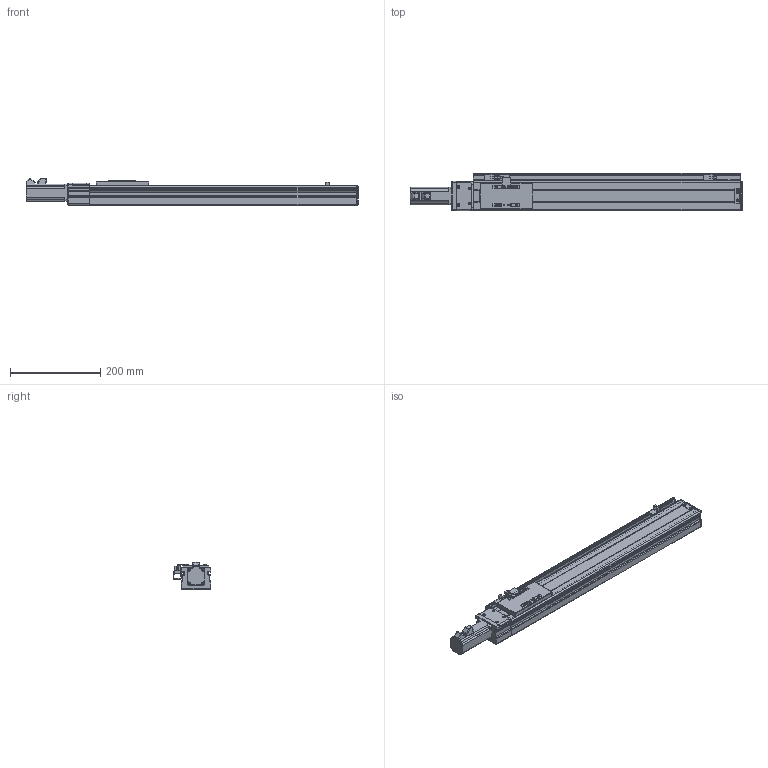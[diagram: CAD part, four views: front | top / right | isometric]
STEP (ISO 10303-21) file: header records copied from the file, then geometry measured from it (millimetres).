
FILE_DESCRIPTION (( 'STEP AP203' ), '1' );
FILE_NAME ('VT6-L10-C-S440-BC-P10-C4.STEP', '2015-10-26T05:58:42', ( '' ), ( '' ), 'SwSTEP 2.0', 'SolidWorks 2013', '' );
FILE_SCHEMA (( 'CONFIG_CONTROL_DESIGN' ));
Length unit declared in the file: millimetre
Products named in the file (15): ET6-BC耜啣_440; T6-BCヶ傷裔; ET6-BC絳寢_俴最440; T6-覜茼え; T6-裔啣; EE-XS674; ET6-BC滅鳥湍_440; T6-賑雄殤; T6-綴傷裔; VT6-L10-C-S440-BC-P10-C4; ET6-BC癹弇羲壽羞_440; T6-BCヶ傷裔揤啣; 侂狟100W MSMD012G1U; T6-揤輸; ET6-BC佪裝_440
Assembly tree (17 placements, depth 2):
  VT6-L10-C-S440-BC-P10-C4
    ET6-BC耜啣_440  x2
    ET6-BC癹弇羲壽羞_440
    T6-賑雄殤
    T6-裔啣
    T6-揤輸
    T6-覜茼え
    T6-綴傷裔
    EE-XS674  x3
    ET6-BC絳寢_俴最440
    ET6-BC滅鳥湍_440
    T6-BCヶ傷裔揤啣
    T6-BCヶ傷裔
    侂狟100W MSMD012G1U
    ET6-BC佪裝_440
Bounding box: 734 x 83 x 61 mm (x, y, z)
Volume: 842691.6 mm3; surface area: 473518.9 mm2
Topology: 17 solids, 17 shells, 888 faces, 2349 edges, 1484 vertices
Faces by surface type: cylinder 408, plane 378, cone 56, torus 28, sphere 18
Entity records: 27254 total; most frequent: CARTESIAN_POINT 4729, DIRECTION 4549, ORIENTED_EDGE 4224, EDGE_CURVE 2112, AXIS2_PLACEMENT_3D 1656, VERTEX_POINT 1344, VECTOR 1237, LINE 1237
